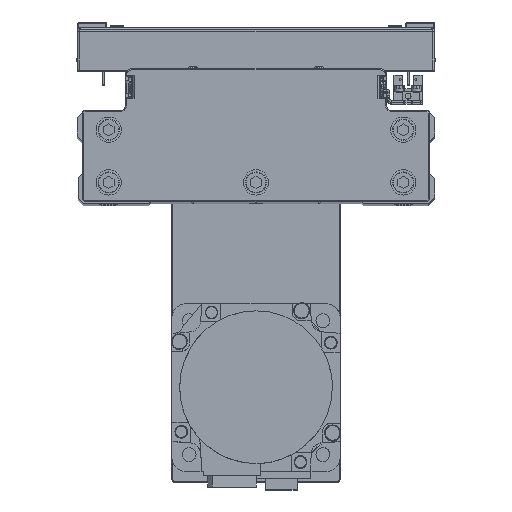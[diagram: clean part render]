
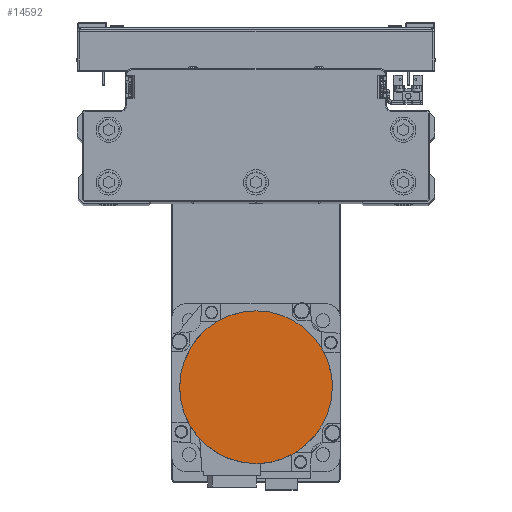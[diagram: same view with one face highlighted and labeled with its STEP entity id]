
A CAD part, top view. The second image highlights one B-rep face of the part: STEP entity #14592.
In plain terms, the highlighted planar face has unit normal (0, 0, 1) as drawn and (0, 0, -1) by its records, which use the part's own axes.
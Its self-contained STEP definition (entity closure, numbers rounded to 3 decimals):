
#201 = CARTESIAN_POINT ( 'NONE',  ( -36.3, 2.376, -122.2 ) ) ;
#432 = CARTESIAN_POINT ( 'NONE',  ( 0., 0., -122.2 ) ) ;
#519 = B_SPLINE_CURVE_WITH_KNOTS ( 'NONE', 3,
 ( #3347, #16957, #30599, #15725, #13608, #27260, #40893, #10254, #23894, #37521, #6913, #20528, #34165, #3553, #17176, #30829, #201, #13837 ),
 .UNSPECIFIED., .F., .F.,
 ( 4, 2, 2, 2, 2, 2, 2, 2, 4 ),
 ( 0., 0.125, 0.25, 0.375, 0.5, 0.625, 0.75, 0.875, 1. ),
 .UNSPECIFIED. ) ;
#915 = AXIS2_PLACEMENT_3D ( 'NONE', #10562, #24198, #37829 ) ;
#2440 = CARTESIAN_POINT ( 'NONE',  ( -18.192, -31.502, -122.2 ) ) ;
#3189 = ORIENTED_EDGE ( 'NONE', *, *, #8162, .F. ) ;
#3347 = CARTESIAN_POINT ( 'NONE',  ( 0., 36.3, -122.2 ) ) ;
#3553 = CARTESIAN_POINT ( 'NONE',  ( -34.446, 11.696, -122.2 ) ) ;
#5799 = CARTESIAN_POINT ( 'NONE',  ( -27.348, -23.988, -122.2 ) ) ;
#6913 = CARTESIAN_POINT ( 'NONE',  ( -28.862, 22.143, -122.2 ) ) ;
#8162 = EDGE_CURVE ( 'NONE', #26300, #29731, #20173, .T. ) ;
#8690 = CARTESIAN_POINT ( 'NONE',  ( 36.3, 0., -122.2 ) ) ;
#9114 = DIRECTION ( 'NONE',  ( 0., 0., 1. ) ) ;
#9144 = CARTESIAN_POINT ( 'NONE',  ( -32.628, -16.086, -122.2 ) ) ;
#10254 = CARTESIAN_POINT ( 'NONE',  ( -22.143, 28.862, -122.2 ) ) ;
#10562 = CARTESIAN_POINT ( 'NONE',  ( 0., 0., -122.2 ) ) ;
#11840 = EDGE_LOOP ( 'NONE', ( #29269, #16620, #33221, #3189 ) ) ;
#12400 = CIRCLE ( 'NONE', #37362, 36.3 ) ;
#12509 = CARTESIAN_POINT ( 'NONE',  ( -36.066, -4.752, -122.2 ) ) ;
#12711 = CARTESIAN_POINT ( 'NONE',  ( -4.752, -36.066, -122.2 ) ) ;
#13608 = CARTESIAN_POINT ( 'NONE',  ( -11.696, 34.446, -122.2 ) ) ;
#13837 = CARTESIAN_POINT ( 'NONE',  ( -36.3, 0., -122.2 ) ) ;
#14058 = DIRECTION ( 'NONE',  ( 0., 0., 1. ) ) ;
#14127 = CARTESIAN_POINT ( 'NONE',  ( -36.3, 0., -122.2 ) ) ;
#14592 = ADVANCED_FACE ( 'NONE', ( #17404 ), #31058, .F. ) ;
#14859 = EDGE_CURVE ( 'NONE', #30051, #26300, #12400, .T. ) ;
#15725 = CARTESIAN_POINT ( 'NONE',  ( -9.412, 35.139, -122.2 ) ) ;
#15835 = CARTESIAN_POINT ( 'NONE',  ( 0., -36.3, -122.2 ) ) ;
#15851 = EDGE_CURVE ( 'NONE', #29731, #18371, #519, .T. ) ;
#16076 = CARTESIAN_POINT ( 'NONE',  ( -16.086, -32.628, -122.2 ) ) ;
#16620 = ORIENTED_EDGE ( 'NONE', *, *, #36144, .F. ) ;
#16957 = CARTESIAN_POINT ( 'NONE',  ( -2.376, 36.3, -122.2 ) ) ;
#17176 = CARTESIAN_POINT ( 'NONE',  ( -35.139, 9.412, -122.2 ) ) ;
#17404 = FACE_OUTER_BOUND ( 'NONE', #11840, .T. ) ;
#18371 = VERTEX_POINT ( 'NONE', #14127 ) ;
#19426 = CARTESIAN_POINT ( 'NONE',  ( -23.988, -27.348, -122.2 ) ) ;
#20173 = CIRCLE ( 'NONE', #915, 36.3 ) ;
#20528 = CARTESIAN_POINT ( 'NONE',  ( -31.502, 18.192, -122.2 ) ) ;
#22739 = DIRECTION ( 'NONE',  ( -1., 0., 0. ) ) ;
#22775 = CARTESIAN_POINT ( 'NONE',  ( -31.502, -18.192, -122.2 ) ) ;
#23894 = CARTESIAN_POINT ( 'NONE',  ( -23.988, 27.348, -122.2 ) ) ;
#24198 = DIRECTION ( 'NONE',  ( 0., 0., 1. ) ) ;
#24549 = B_SPLINE_CURVE_WITH_KNOTS ( 'NONE', 3,
 ( #29499, #43141, #12509, #26143, #39777, #9144, #22775, #36393, #5799, #19426, #33061, #2440, #16076, #29721, #43356, #12711, #26345, #39986 ),
 .UNSPECIFIED., .F., .F.,
 ( 4, 2, 2, 2, 2, 2, 2, 2, 4 ),
 ( 0., 0.125, 0.25, 0.375, 0.5, 0.625, 0.75, 0.875, 1. ),
 .UNSPECIFIED. ) ;
#26143 = CARTESIAN_POINT ( 'NONE',  ( -35.139, -9.412, -122.2 ) ) ;
#26300 = VERTEX_POINT ( 'NONE', #8690 ) ;
#26345 = CARTESIAN_POINT ( 'NONE',  ( -2.376, -36.3, -122.2 ) ) ;
#27260 = CARTESIAN_POINT ( 'NONE',  ( -16.086, 32.628, -122.2 ) ) ;
#27694 = DIRECTION ( 'NONE',  ( 1., 0., 0. ) ) ;
#29269 = ORIENTED_EDGE ( 'NONE', *, *, #14859, .F. ) ;
#29499 = CARTESIAN_POINT ( 'NONE',  ( -36.3, 0., -122.2 ) ) ;
#29721 = CARTESIAN_POINT ( 'NONE',  ( -11.696, -34.446, -122.2 ) ) ;
#29731 = VERTEX_POINT ( 'NONE', #43181 ) ;
#30051 = VERTEX_POINT ( 'NONE', #15835 ) ;
#30599 = CARTESIAN_POINT ( 'NONE',  ( -4.752, 36.066, -122.2 ) ) ;
#30829 = CARTESIAN_POINT ( 'NONE',  ( -36.066, 4.752, -122.2 ) ) ;
#30939 = AXIS2_PLACEMENT_3D ( 'NONE', #432, #14058, #27694 ) ;
#31058 = PLANE ( 'NONE',  #30939 ) ;
#33061 = CARTESIAN_POINT ( 'NONE',  ( -22.143, -28.862, -122.2 ) ) ;
#33221 = ORIENTED_EDGE ( 'NONE', *, *, #15851, .F. ) ;
#34165 = CARTESIAN_POINT ( 'NONE',  ( -32.628, 16.086, -122.2 ) ) ;
#36144 = EDGE_CURVE ( 'NONE', #18371, #30051, #24549, .T. ) ;
#36393 = CARTESIAN_POINT ( 'NONE',  ( -28.862, -22.143, -122.2 ) ) ;
#37362 = AXIS2_PLACEMENT_3D ( 'NONE', #39742, #9114, #22739 ) ;
#37521 = CARTESIAN_POINT ( 'NONE',  ( -27.348, 23.988, -122.2 ) ) ;
#37829 = DIRECTION ( 'NONE',  ( -1., 0., 0. ) ) ;
#39742 = CARTESIAN_POINT ( 'NONE',  ( 0., 0., -122.2 ) ) ;
#39777 = CARTESIAN_POINT ( 'NONE',  ( -34.446, -11.696, -122.2 ) ) ;
#39986 = CARTESIAN_POINT ( 'NONE',  ( 0., -36.3, -122.2 ) ) ;
#40893 = CARTESIAN_POINT ( 'NONE',  ( -18.192, 31.502, -122.2 ) ) ;
#43141 = CARTESIAN_POINT ( 'NONE',  ( -36.3, -2.376, -122.2 ) ) ;
#43181 = CARTESIAN_POINT ( 'NONE',  ( 0., 36.3, -122.2 ) ) ;
#43356 = CARTESIAN_POINT ( 'NONE',  ( -9.412, -35.139, -122.2 ) ) ;
